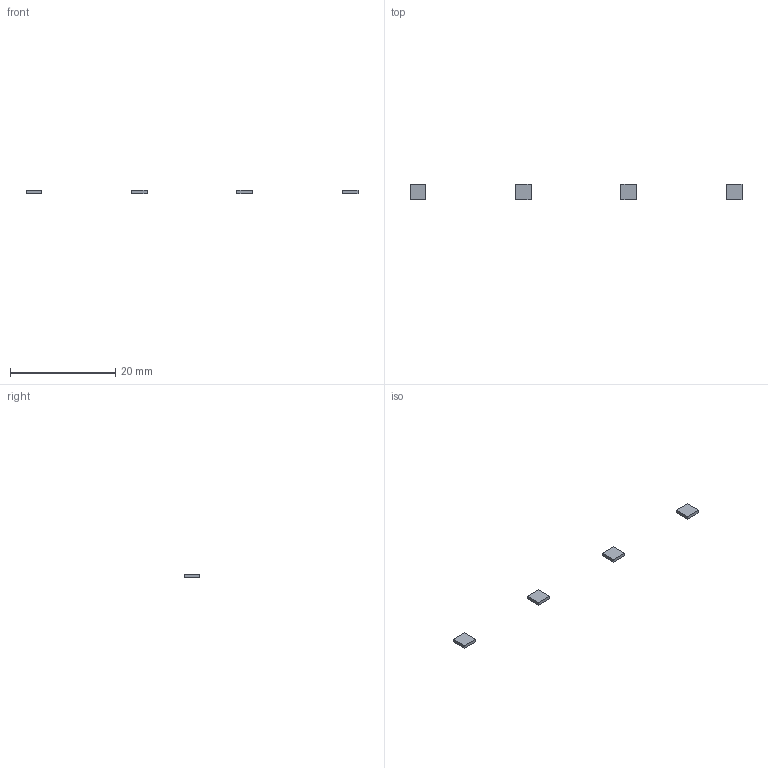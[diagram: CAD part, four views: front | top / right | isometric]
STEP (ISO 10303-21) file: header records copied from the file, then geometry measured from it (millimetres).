
FILE_DESCRIPTION(('Open CASCADE Model'),'2;1');
FILE_NAME('Open CASCADE Shape Model','2026-09-29T12:48:02',('Author'),( 'Open CASCADE'),'Open CASCADE STEP processor 7.9','Open CASCADE 7.9' ,'Unknown');
FILE_SCHEMA(('AUTOMOTIVE_DESIGN { 1 0 10303 214 1 1 1 1 }'));
Length unit declared in the file: millimetre
Products named in the file (5): Open CASCADE STEP translator 7.9 13; Open CASCADE STEP translator 7.9 13.1; Open CASCADE STEP translator 7.9 13.2; Open CASCADE STEP translator 7.9 13.3; Open CASCADE STEP translator 7.9 13.4
Assembly tree (4 placements, depth 2):
  Open CASCADE STEP translator 7.9 13
    Open CASCADE STEP translator 7.9 13.1
    Open CASCADE STEP translator 7.9 13.2
    Open CASCADE STEP translator 7.9 13.3
    Open CASCADE STEP translator 7.9 13.4
Bounding box: 63 x 3 x 0.6 mm (x, y, z)
Volume: 21.6 mm3; surface area: 100.8 mm2
Topology: 4 solids, 4 shells, 24 faces, 48 edges, 32 vertices
Faces by surface type: plane 24
Entity records: 1312 total; most frequent: CARTESIAN_POINT 205, DIRECTION 202, LINE 144, VECTOR 144, ORIENTED_EDGE 96, PCURVE 96, DEFINITIONAL_REPRESENTATION 96, EDGE_CURVE 48
